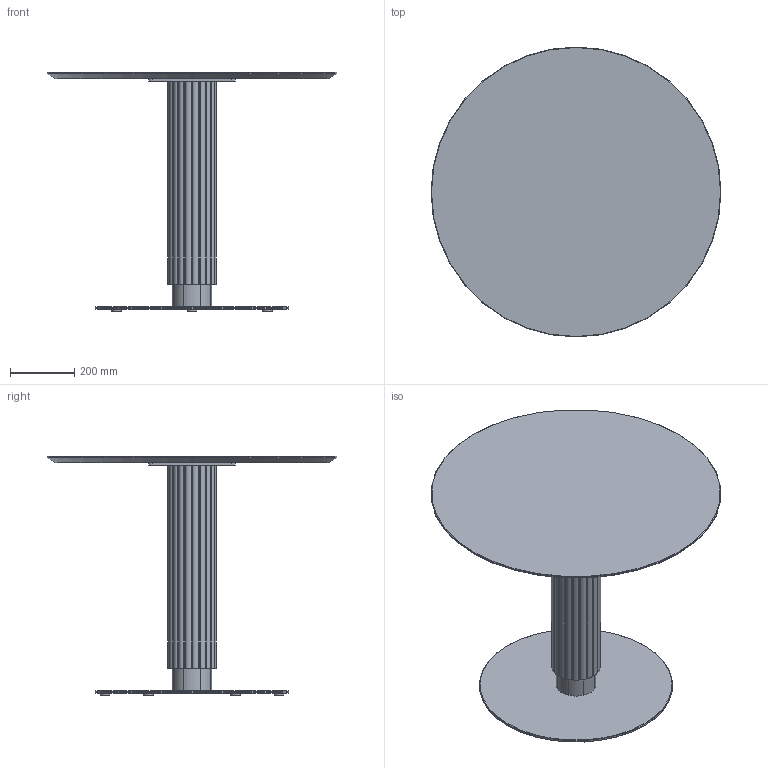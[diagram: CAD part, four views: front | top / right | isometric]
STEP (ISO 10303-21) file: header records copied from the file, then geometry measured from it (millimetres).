
FILE_DESCRIPTION( ('This file contains a STEP AP42 implementation' ,'as created by ZW3D STEP Interface translator.') ,'2;1' );
FILE_NAME( 'God - B_Rond - F1 - M5 - 900 x 900 x 750.stp' ,'24 912.114030', (''), ('ZWCAD Software Co.'), 'Version 1.0', 'ZW3D to STEP translator', '' );
FILE_SCHEMA(('AUTOMOTIVE_DESIGN { 1 0 10303 214 1 1 1 1 }'));
Length unit declared in the file: millimetre
Products named in the file (15): 0; PIED BISTROT PARAMETRIQUE_; CROIX ACIER 370 V.02_; CRX-X370-02_; SOCLE ACIER C Ø600 V.02_; SCL-D600-02_; PLA-R30A-01_; PLA-R30A-01; COLONNE ACIER Ø48.5 V.02_; TUB-D048-02_; PLA-R48A-01_; Colonne GODRON H700_; WUERTH 0276063020 Euro-screw 6.3x2 Verzinkt_; PLATEAU BISTROT PARAMETRIQUE_; insert_m6_13_
Assembly tree (25 placements, depth 3):
  0
  PIED BISTROT PARAMETRIQUE_
    CROIX ACIER 370 V.02_
      CRX-X370-02_
    SOCLE ACIER C Ø600 V.02_
      SCL-D600-02_
      PLA-R30A-01_
      PLA-R30A-01  x5
    COLONNE ACIER Ø48.5 V.02_
      TUB-D048-02_
      PLA-R48A-01_  x2
    Colonne GODRON H700_
    WUERTH 0276063020 Euro-screw 6.3x2 Verzinkt_
    PLATEAU BISTROT PARAMETRIQUE_
      insert_m6_13_  x8
Bounding box: 900 x 900 x 744 mm (x, y, z)
Volume: 25516355.2 mm3; surface area: 3295745.4 mm2
Topology: 29 solids, 29 shells, 656 faces, 1625 edges, 1042 vertices
Faces by surface type: plane 294, cylinder 193, bspline 121, cone 47, torus 1
Full cylindrical faces by diameter (mm): 4.88 x1, 6 x8, 6.3 x1, 8 x47, 12 x2, 14 x2, 30 x6, 44.5 x3, 48.5 x1, 600 x1
Entity records: 16234 total; most frequent: CARTESIAN_POINT 4039, DIRECTION 2249, ORIENTED_EDGE 2240, EDGE_CURVE 1120, AXIS2_PLACEMENT_3D 800, VERTEX_POINT 728, VECTOR 649, LINE 649
